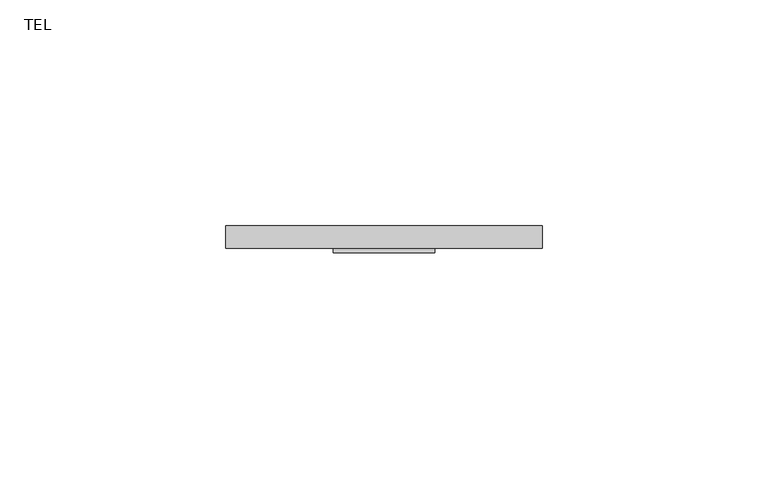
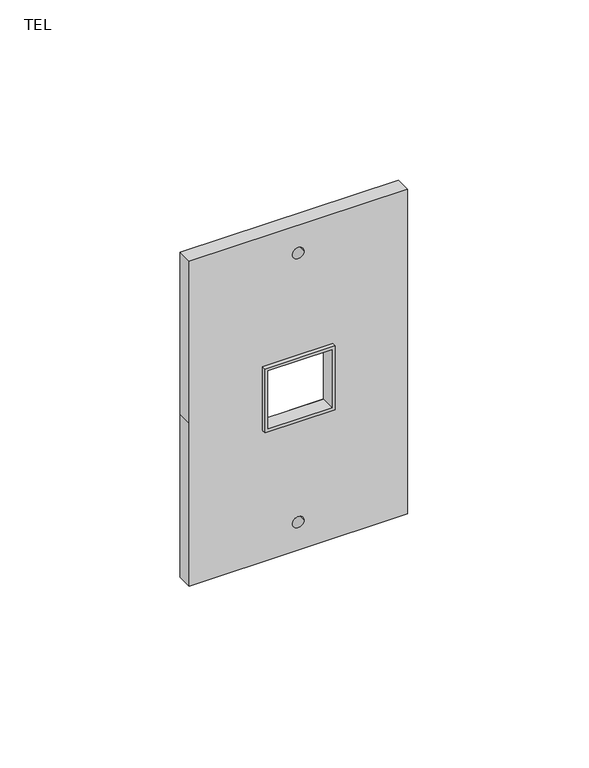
"""IFC4 building model written with IfcOpenShell, lengths in millimetres: proxy geometry, TEL : Contacto-comunicaciones."""

from ifc_helpers import new_model, si_unit, point, frame, frame_2d, origin, place, context, project, spatial, polyline, circle_curve, trimmed, segment, composite_curve, outline, extrude, source, transform, mapped, element, save


def tel_1d25d3ed(model_context):
    return source(origin(), model_context, "Body", "SweptSolid", [
        extrude(outline(polyline([(360.8125, 113.75), (339.1875, 113.75), (339.1875, 136.25), (360.8125, 136.25), (360.8125, 113.75)]), holes=[polyline([(359.8125, 135.25), (340.1875, 135.25), (340.1875, 114.75), (359.8125, 114.75), (359.8125, 135.25)])]), frame((0.0, -58.3184395, 0.0), z_axis=(0.0, 1.0, 0.0), x_axis=(0.0, 0.0, 1.0)), (0.0, 0.0, 1.0), 4.7658788),
        extrude(outline(polyline([(405.0, 160.0), (405.0, 90.0), (350.0, 90.0), (295.0, 90.0), (295.0, 160.0), (405.0, 160.0)]), holes=[composite_curve([segment(trimmed(circle_curve(frame_2d((395.5814465, 125.0)), 1.8475425), [point((395.5814465, 123.1524575))], [point((395.5814465, 126.8475425))], True, "CARTESIAN"), True, "CONTINUOUS"), segment(trimmed(circle_curve(frame_2d((395.5814465, 125.0)), 1.8475425), [point((395.5814465, 126.8475425))], [point((395.5814465, 123.1524575))], True, "CARTESIAN"), True, "CONTINUOUS")], self_intersect=False), composite_curve([segment(trimmed(circle_curve(frame_2d((304.4185535, 125.0)), 1.8475425), [point((304.4185535, 123.1524575))], [point((304.4185535, 126.8475425))], True, "CARTESIAN"), True, "CONTINUOUS"), segment(trimmed(circle_curve(frame_2d((304.4185535, 125.0)), 1.8475425), [point((304.4185535, 126.8475425))], [point((304.4185535, 123.1524575))], True, "CARTESIAN"), True, "CONTINUOUS")], self_intersect=False), polyline([(360.8125, 113.75), (360.8125, 136.25), (339.1875, 136.25), (339.1875, 113.75), (360.8125, 113.75)])]), frame((0.0, -57.35, 0.0), z_axis=(0.0, 1.0, 0.0), x_axis=(0.0, 0.0, 1.0)), (0.0, 0.0, 1.0), 5.0),
    ])


if __name__ == "__main__":
    model = new_model("IFC4")
    model_context = context("Model", 3, world=origin())
    ifc_project = project(units=[si_unit("LENGTHUNIT", "METRE", prefix="MILLI")], contexts=[model_context])
    site = spatial("IfcSite", under=ifc_project)
    building = spatial("IfcBuilding", under=site)
    placement = place(None, origin())
    tel_shape = tel_1d25d3ed(model_context)
    element("IfcBuildingElementProxy", 1, Name="TEL : Contacto-comunicaciones", ObjectType="TEL : Contacto-comunicaciones", at=placement, inside=building, context=model_context, shape_type="MappedRepresentation", body=[
        mapped(tel_shape, transform((0.0, 0.0, 0.0), x_axis=(1.0, 0.0, 0.0), y_axis=(0.0, 1.0, 0.0), z_axis=(0.0, 0.0, 1.0))),
    ])
    save(model, "model.ifc")
